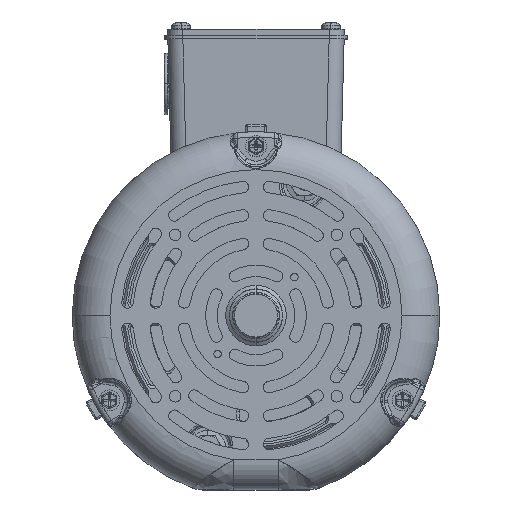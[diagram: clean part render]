
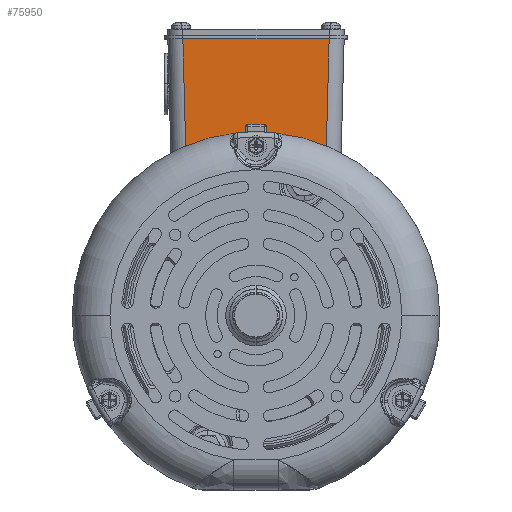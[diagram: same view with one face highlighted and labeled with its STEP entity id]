
A CAD part, top view. The second image highlights one B-rep face of the part: STEP entity #75950.
In plain terms, the highlighted planar face has unit normal (0, -0.026, 1).
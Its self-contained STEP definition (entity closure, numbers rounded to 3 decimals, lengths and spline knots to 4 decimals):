
#110 = EDGE_CURVE ( 'NONE', #10369, #32771, #136111, .T. ) ;
#5732 = ORIENTED_EDGE ( 'NONE', *, *, #91627, .T. ) ;
#5979 = DIRECTION ( 'NONE',  ( 0., -1., -0.026 ) ) ;
#10122 = ORIENTED_EDGE ( 'NONE', *, *, #11287, .T. ) ;
#10369 = VERTEX_POINT ( 'NONE', #77729 ) ;
#10825 = CARTESIAN_POINT ( 'NONE',  ( -0.799, 2.7882, 10.6853 ) ) ;
#11287 = EDGE_CURVE ( 'NONE', #56415, #115062, #53458, .T. ) ;
#11362 = EDGE_CURVE ( 'NONE', #115062, #10369, #135364, .T. ) ;
#18951 = VECTOR ( 'NONE', #22557, 39.3701 ) ;
#21083 = DIRECTION ( 'NONE',  ( 0.026, -0.999, -0.026 ) ) ;
#21922 = EDGE_LOOP ( 'NONE', ( #10122, #35062, #48808, #90183, #5732 ) ) ;
#22557 = DIRECTION ( 'NONE',  ( 1., 0., 0. ) ) ;
#24200 = CARTESIAN_POINT ( 'NONE',  ( 0., 2.8725, 10.6875 ) ) ;
#26035 = CARTESIAN_POINT ( 'NONE',  ( 0.4039, 2.8725, 10.6875 ) ) ;
#27424 = CARTESIAN_POINT ( 'NONE',  ( 0.799, 2.7882, 10.6853 ) ) ;
#32749 = CARTESIAN_POINT ( 'NONE',  ( -0.4039, 2.8725, 10.6875 ) ) ;
#32771 = VERTEX_POINT ( 'NONE', #140721 ) ;
#35062 = ORIENTED_EDGE ( 'NONE', *, *, #11362, .T. ) ;
#38366 = DIRECTION ( 'NONE',  ( 0., -0.026, 1. ) ) ;
#38836 = CARTESIAN_POINT ( 'NONE',  ( -1.47, 4.6225, 10.7333 ) ) ;
#42509 = CARTESIAN_POINT ( 'NONE',  ( -1.47, 4.6225, 10.7333 ) ) ;
#48354 = CARTESIAN_POINT ( 'NONE',  ( 1.1677, 2.6232, 10.6809 ) ) ;
#48808 = ORIENTED_EDGE ( 'NONE', *, *, #110, .T. ) ;
#53458 =( BOUNDED_CURVE ( )  B_SPLINE_CURVE ( 3, ( #119297, #10825, #32749, #24200 ),
 .UNSPECIFIED., .F., .F. ) 
 B_SPLINE_CURVE_WITH_KNOTS ( ( 4, 4 ),
 ( 2.721, 3.1416 ),
 .UNSPECIFIED. ) 
 CURVE ( )  GEOMETRIC_REPRESENTATION_ITEM ( )  RATIONAL_B_SPLINE_CURVE ( ( 1., 0.985, 0.985, 1. ) ) 
 REPRESENTATION_ITEM ( '' )  );
#55174 = EDGE_CURVE ( 'NONE', #72429, #32771, #76889, .T. ) ;
#56415 = VERTEX_POINT ( 'NONE', #120402 ) ;
#59349 = AXIS2_PLACEMENT_3D ( 'NONE', #38836, #38366, #5979 ) ;
#60786 = PLANE ( 'NONE',  #59349 ) ;
#68497 = VECTOR ( 'NONE', #21083, 39.3701 ) ;
#72429 = VERTEX_POINT ( 'NONE', #98914 ) ;
#75648 = FACE_OUTER_BOUND ( 'NONE', #21922, .T. ) ;
#75950 = ADVANCED_FACE ( 'NONE', ( #75648 ), #60786, .T. ) ;
#76889 = LINE ( 'NONE', #42509, #18951 ) ;
#77174 = DIRECTION ( 'NONE',  ( 0.026, 0.999, 0.026 ) ) ;
#77729 = CARTESIAN_POINT ( 'NONE',  ( 1.1677, 2.6232, 10.6809 ) ) ;
#78725 = LINE ( 'NONE', #119031, #68497 ) ;
#87586 = CARTESIAN_POINT ( 'NONE',  ( 1.2182, 4.5522, 10.7315 ) ) ;
#90183 = ORIENTED_EDGE ( 'NONE', *, *, #55174, .F. ) ;
#91627 = EDGE_CURVE ( 'NONE', #72429, #56415, #78725, .T. ) ;
#97012 = VECTOR ( 'NONE', #77174, 39.3701 ) ;
#98914 = CARTESIAN_POINT ( 'NONE',  ( -1.2201, 4.6225, 10.7333 ) ) ;
#115062 = VERTEX_POINT ( 'NONE', #138245 ) ;
#119031 = CARTESIAN_POINT ( 'NONE',  ( -1.2203, 4.629, 10.7335 ) ) ;
#119297 = CARTESIAN_POINT ( 'NONE',  ( -1.1677, 2.6232, 10.6809 ) ) ;
#120402 = CARTESIAN_POINT ( 'NONE',  ( -1.1677, 2.6232, 10.6809 ) ) ;
#123016 = CARTESIAN_POINT ( 'NONE',  ( 0., 2.8725, 10.6875 ) ) ;
#135364 =( BOUNDED_CURVE ( )  B_SPLINE_CURVE ( 3, ( #123016, #26035, #27424, #48354 ),
 .UNSPECIFIED., .F., .F. ) 
 B_SPLINE_CURVE_WITH_KNOTS ( ( 4, 4 ),
 ( 3.1416, 3.5622 ),
 .UNSPECIFIED. ) 
 CURVE ( )  GEOMETRIC_REPRESENTATION_ITEM ( )  RATIONAL_B_SPLINE_CURVE ( ( 1., 0.985, 0.985, 1. ) ) 
 REPRESENTATION_ITEM ( '' )  );
#136111 = LINE ( 'NONE', #87586, #97012 ) ;
#138245 = CARTESIAN_POINT ( 'NONE',  ( 0., 2.8725, 10.6875 ) ) ;
#140721 = CARTESIAN_POINT ( 'NONE',  ( 1.2201, 4.6225, 10.7333 ) ) ;
